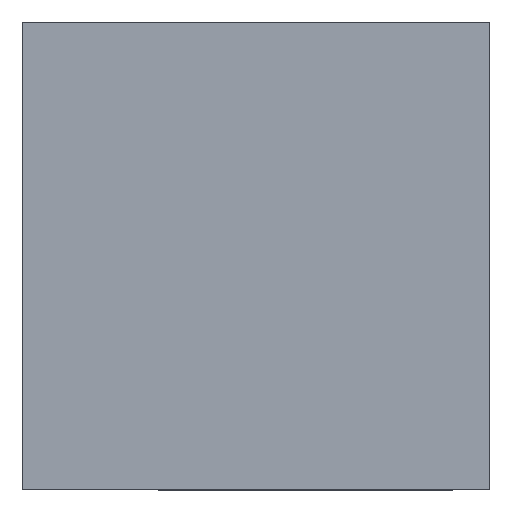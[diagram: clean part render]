
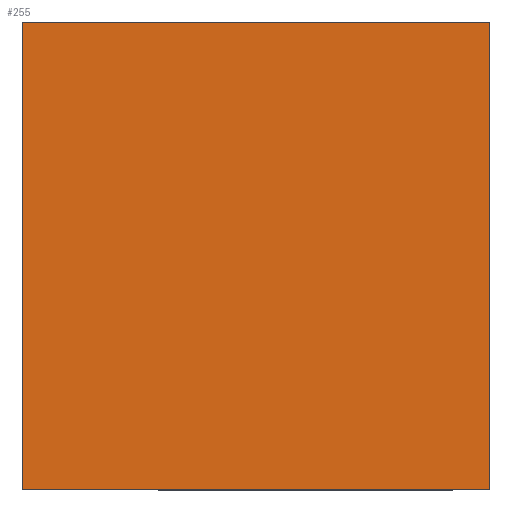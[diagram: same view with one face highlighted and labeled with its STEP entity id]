
A CAD part, top view. The second image highlights one B-rep face of the part: STEP entity #255.
In plain terms, the highlighted planar face has unit normal (0, 0, 1).
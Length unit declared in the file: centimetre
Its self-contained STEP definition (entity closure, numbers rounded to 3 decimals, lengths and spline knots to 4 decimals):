
#9 = VECTOR ( 'NONE', #368, 100. ) ;
#17 = CARTESIAN_POINT ( 'NONE',  ( 1000., 1000., 1000. ) ) ;
#120 = CARTESIAN_POINT ( 'NONE',  ( 0., 1000., 1000. ) ) ;
#126 = CARTESIAN_POINT ( 'NONE',  ( 1000., 1000., 1000. ) ) ;
#153 = PLANE ( 'NONE',  #887 ) ;
#236 = DIRECTION ( 'NONE',  ( -1., 0., 0. ) ) ;
#255 = ADVANCED_FACE ( 'NONE', ( #1044 ), #153, .T. ) ;
#270 = VERTEX_POINT ( 'NONE', #540 ) ;
#296 = DIRECTION ( 'NONE',  ( 1., 0., 0. ) ) ;
#352 = ORIENTED_EDGE ( 'NONE', *, *, #1478, .T. ) ;
#368 = DIRECTION ( 'NONE',  ( 0., 1., 0. ) ) ;
#384 = DIRECTION ( 'NONE',  ( 0., -1., 0. ) ) ;
#454 = ORIENTED_EDGE ( 'NONE', *, *, #1253, .T. ) ;
#474 = ORIENTED_EDGE ( 'NONE', *, *, #976, .T. ) ;
#531 = ORIENTED_EDGE ( 'NONE', *, *, #1276, .T. ) ;
#535 = VERTEX_POINT ( 'NONE', #890 ) ;
#540 = CARTESIAN_POINT ( 'NONE',  ( 0., 1000., 1000. ) ) ;
#633 = LINE ( 'NONE', #120, #1186 ) ;
#652 = DIRECTION ( 'NONE',  ( 0., 0., 1. ) ) ;
#768 = LINE ( 'NONE', #1513, #1615 ) ;
#887 = AXIS2_PLACEMENT_3D ( 'NONE', #1306, #652, #1297 ) ;
#890 = CARTESIAN_POINT ( 'NONE',  ( 0., 0., 1000. ) ) ;
#924 = VECTOR ( 'NONE', #236, 100. ) ;
#976 = EDGE_CURVE ( 'NONE', #535, #1463, #768, .T. ) ;
#1044 = FACE_OUTER_BOUND ( 'NONE', #1286, .T. ) ;
#1122 = LINE ( 'NONE', #126, #9 ) ;
#1186 = VECTOR ( 'NONE', #384, 100. ) ;
#1253 = EDGE_CURVE ( 'NONE', #1267, #270, #1491, .T. ) ;
#1262 = CARTESIAN_POINT ( 'NONE',  ( 0., 1000., 1000. ) ) ;
#1267 = VERTEX_POINT ( 'NONE', #17 ) ;
#1276 = EDGE_CURVE ( 'NONE', #270, #535, #633, .T. ) ;
#1286 = EDGE_LOOP ( 'NONE', ( #531, #474, #352, #454 ) ) ;
#1297 = DIRECTION ( 'NONE',  ( 1., 0., 0. ) ) ;
#1306 = CARTESIAN_POINT ( 'NONE',  ( 0., 0., 1000. ) ) ;
#1378 = CARTESIAN_POINT ( 'NONE',  ( 1000., 0., 1000. ) ) ;
#1463 = VERTEX_POINT ( 'NONE', #1378 ) ;
#1478 = EDGE_CURVE ( 'NONE', #1463, #1267, #1122, .T. ) ;
#1491 = LINE ( 'NONE', #1262, #924 ) ;
#1513 = CARTESIAN_POINT ( 'NONE',  ( 0., 0., 1000. ) ) ;
#1615 = VECTOR ( 'NONE', #296, 100. ) ;
